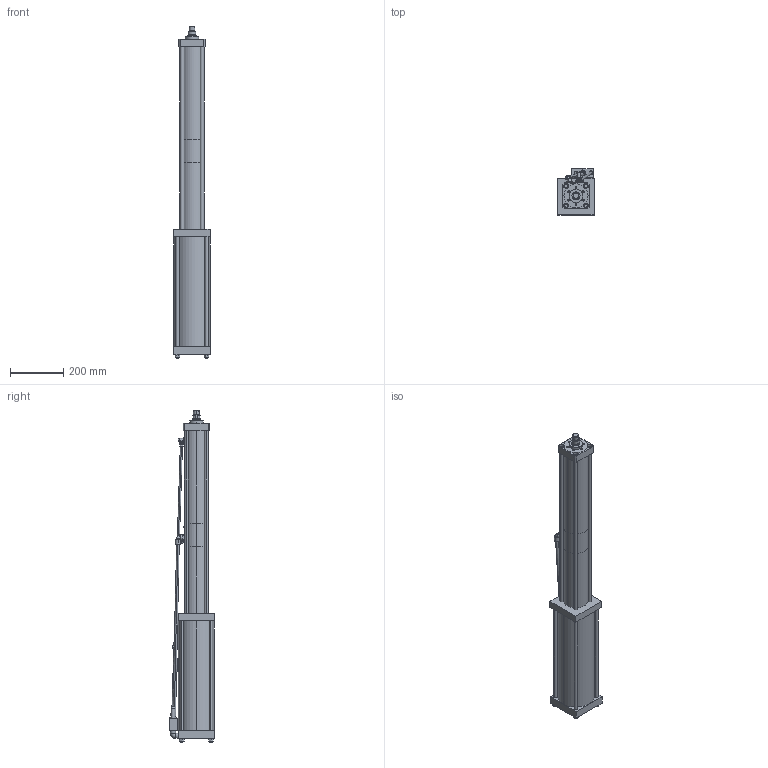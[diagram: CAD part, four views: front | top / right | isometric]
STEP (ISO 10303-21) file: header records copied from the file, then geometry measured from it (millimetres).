
FILE_DESCRIPTION (( 'STEP AP214' ), '1' );
FILE_NAME ('BS04-300-24S.STEP', '2025-09-22T11:39:53', ( 'Ranlm' ), ( '' ), 'SwSTEP 2.0', 'SolidWorks 2022', '' );
FILE_SCHEMA (( 'AUTOMOTIVE_DESIGN' ));
Length unit declared in the file: millimetre
Products named in the file (1): BS04-300-24S
Bounding box: 139 x 172 x 1241.7 mm (x, y, z)
Volume: 12471816.8 mm3; surface area: 869906.8 mm2
Topology: 31 solids, 32 shells, 580 faces, 1273 edges, 781 vertices
Faces by surface type: plane 264, cylinder 196, cone 70, torus 38, bspline 10, sphere 2
Entity records: 23731 total; most frequent: CARTESIAN_POINT 4053, DIRECTION 2903, ORIENTED_EDGE 2490, EDGE_CURVE 1245, AXIS2_PLACEMENT_3D 1136, VERTEX_POINT 779, EDGE_LOOP 654, LINE 631
